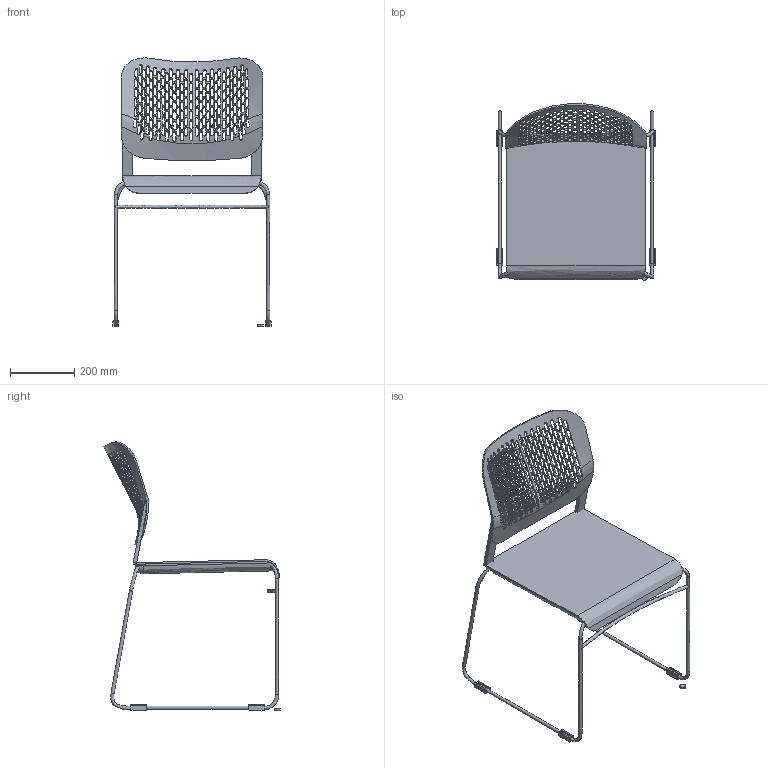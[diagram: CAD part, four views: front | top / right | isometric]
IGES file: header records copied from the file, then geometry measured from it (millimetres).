
Global section: file name: No Iges File Name specified; native system: AutoDesk Inventor R10; preprocessor: AutoDesk Inventor Iges Exporter R10; author: No Author specified; organization: No Organization specified; date: 20111209.204017; units: millimetre
Bounding box: 491.23 x 546.98 x 832.36 mm (x, y, z)
Volume: 7144712.5 mm3; surface area: 1234152.3 mm2
Topology: 11 solids, 11 shells, 1039 faces, 3209 edges, 2129 vertices
Faces by surface type: bspline 1039
